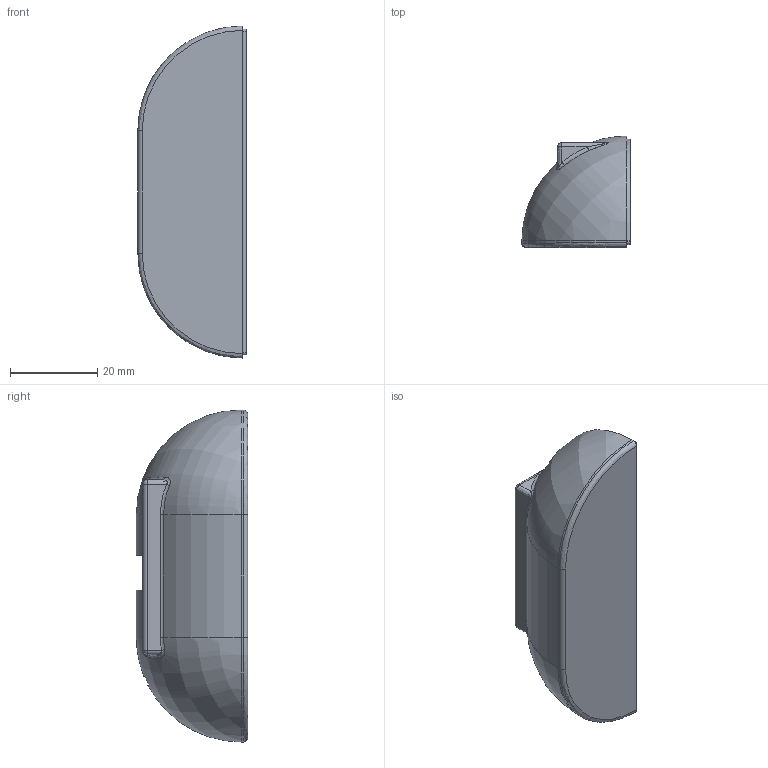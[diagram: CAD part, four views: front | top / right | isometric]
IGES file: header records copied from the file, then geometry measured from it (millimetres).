
Global section: file name: Filename.iges; native system: Open CASCADE 7.5; preprocessor: Open CASCADE IGES processor 7.5; date: 20210414.165729; units: millimetre
Bounding box: 24.8 x 25.5 x 76 mm (x, y, z)
Surface area: 11519.7 mm2 (no closed solid volume)
Topology: 0 solids, 0 shells, 140 faces, 734 edges, 734 vertices
Faces by surface type: revolution 71, bspline 69
